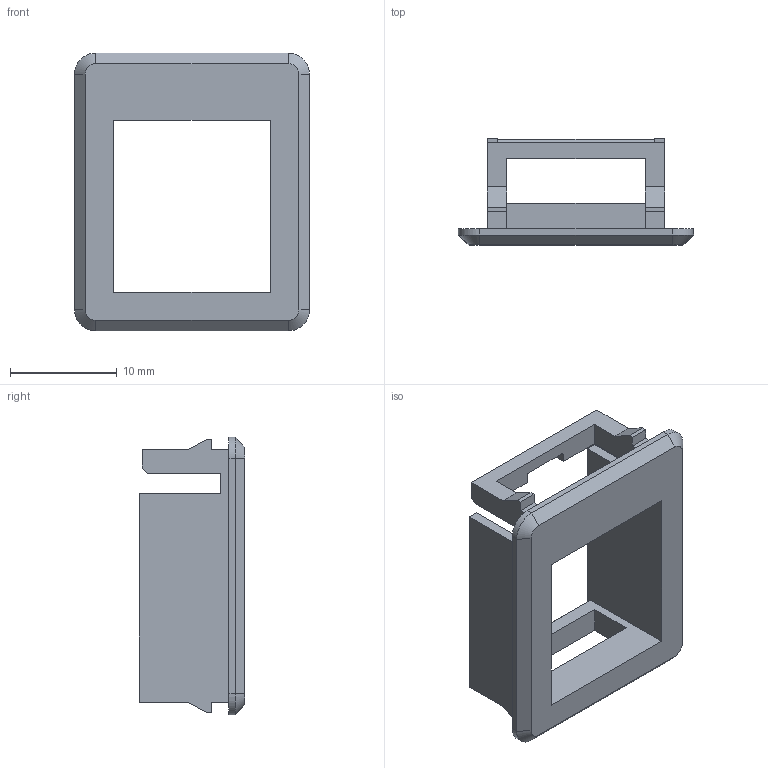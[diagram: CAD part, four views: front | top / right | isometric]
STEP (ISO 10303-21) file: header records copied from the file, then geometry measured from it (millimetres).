
FILE_DESCRIPTION( ('This file contains a STEP AP42 implementation' ,'as created by ZW3D STEP Interface translator.') ,'2;1' );
FILE_NAME( 'TB-037_3013BUS12xx_SD.stp' ,'26 330.134527', (''), ('ZWCAD Software Co.'), 'Version 1.0', 'ZW3D to STEP translator', '' );
FILE_SCHEMA(('AUTOMOTIVE_DESIGN'));
Length unit declared in the file: millimetre
Products named in the file (2): 0; TB-037_3013BUS12xx_SD
Bounding box: 22 x 9.9 x 26 mm (x, y, z)
Volume: 993.3 mm3; surface area: 1942.8 mm2
Topology: 1 solids, 1 shells, 67 faces, 196 edges, 128 vertices
Faces by surface type: bspline 67
Entity records: 3089 total; most frequent: CARTESIAN_POINT 1809, ORIENTED_EDGE 392, B_SPLINE_CURVE_WITH_KNOTS 196, EDGE_CURVE 196, VERTEX_POINT 128, EDGE_LOOP 70, FACE_OUTER_BOUND 67, ADVANCED_FACE 67
